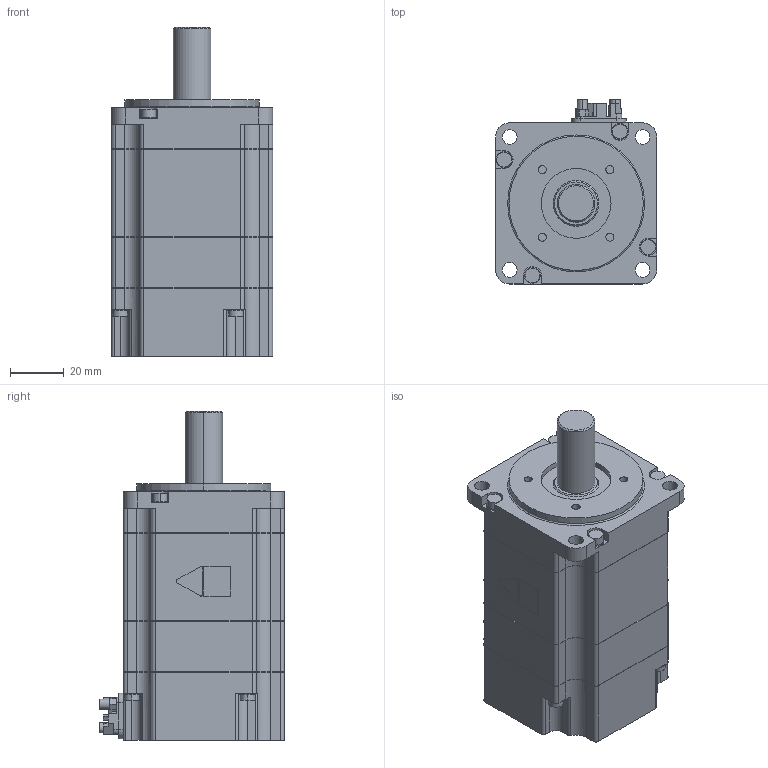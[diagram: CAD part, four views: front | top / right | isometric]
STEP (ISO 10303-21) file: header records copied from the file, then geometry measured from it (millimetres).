
FILE_DESCRIPTION (( 'STEP AP214' ), '1' );
FILE_NAME ('sgmxj_04awa21a1.STEP', '2021-01-26T01:14:41', ( 'EN00457-1' ), ( 'Hewlett-Packard Company' ), 'SwSTEP 2.0', 'SolidWorks 2016', '' );
FILE_SCHEMA (( 'AUTOMOTIVE_DESIGN' ));
Length unit declared in the file: millimetre
Products named in the file (1): sgmxj_04awa21a1
Bounding box: 60.1 x 68.8 x 122.6 mm (x, y, z)
Volume: 302811.4 mm3; surface area: 33167.7 mm2
Topology: 1 solids, 1 shells, 432 faces, 1145 edges, 762 vertices
Faces by surface type: plane 247, cylinder 179, cone 4, torus 2
Entity records: 18260 total; most frequent: DIRECTION 2383, CARTESIAN_POINT 2340, ORIENTED_EDGE 2290, EDGE_CURVE 1145, AXIS2_PLACEMENT_3D 805, VECTOR 773, LINE 773, VERTEX_POINT 762
